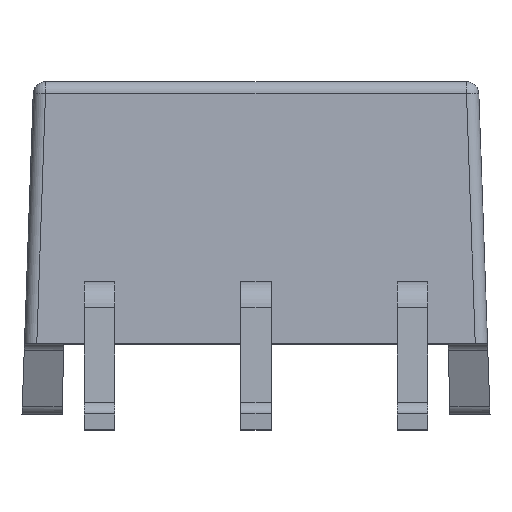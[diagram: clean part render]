
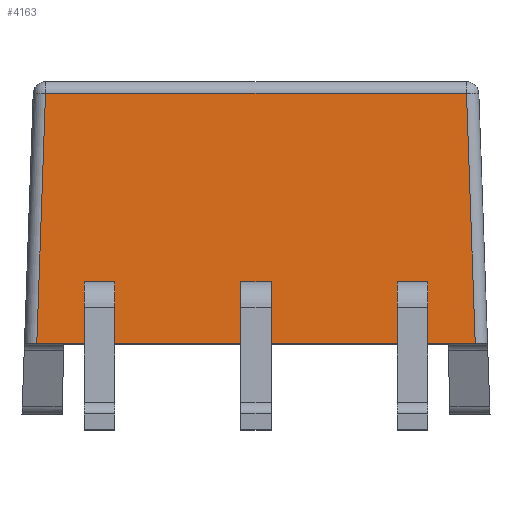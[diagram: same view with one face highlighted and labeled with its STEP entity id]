
A CAD part, top view. The second image highlights one B-rep face of the part: STEP entity #4163.
In plain terms, the highlighted planar face has unit normal (0, 0.035, 0.999).
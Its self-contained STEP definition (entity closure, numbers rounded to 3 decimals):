
#2 = LINE ( 'NONE', #1140, #262 ) ;
#78 = CARTESIAN_POINT ( 'NONE',  ( 0.25, 1.9, 3.484 ) ) ;
#95 = VECTOR ( 'NONE', #2229, 1000. ) ;
#231 = ORIENTED_EDGE ( 'NONE', *, *, #4619, .F. ) ;
#260 = VERTEX_POINT ( 'NONE', #3430 ) ;
#261 = VERTEX_POINT ( 'NONE', #3061 ) ;
#262 = VECTOR ( 'NONE', #2711, 1000. ) ;
#266 = CARTESIAN_POINT ( 'NONE',  ( -0.25, 2.15, 3.475 ) ) ;
#297 = DIRECTION ( 'NONE',  ( 0., -0.999, 0.035 ) ) ;
#312 = ORIENTED_EDGE ( 'NONE', *, *, #1729, .T. ) ;
#331 = CARTESIAN_POINT ( 'NONE',  ( 0.25, 2.15, 3.475 ) ) ;
#455 = CARTESIAN_POINT ( 'NONE',  ( -2.79, 1.9, 3.484 ) ) ;
#531 = CARTESIAN_POINT ( 'NONE',  ( -2.79, 2.15, 3.475 ) ) ;
#574 = CARTESIAN_POINT ( 'NONE',  ( 0.25, 1.9, 3.484 ) ) ;
#602 = CARTESIAN_POINT ( 'NONE',  ( -2.79, 2.15, 3.475 ) ) ;
#640 = EDGE_CURVE ( 'NONE', #1266, #3493, #2, .T. ) ;
#650 = DIRECTION ( 'NONE',  ( 1., 0., 0. ) ) ;
#665 = ORIENTED_EDGE ( 'NONE', *, *, #2615, .T. ) ;
#673 = EDGE_CURVE ( 'NONE', #4628, #3598, #1560, .T. ) ;
#676 = VECTOR ( 'NONE', #956, 1000. ) ;
#708 = LINE ( 'NONE', #2154, #2850 ) ;
#843 = VERTEX_POINT ( 'NONE', #2757 ) ;
#869 = DIRECTION ( 'NONE',  ( 1., 0., 0. ) ) ;
#902 = CARTESIAN_POINT ( 'NONE',  ( -3.611, 5.207, 3.368 ) ) ;
#916 = ORIENTED_EDGE ( 'NONE', *, *, #1431, .F. ) ;
#929 = CARTESIAN_POINT ( 'NONE',  ( 3.591, 0.258, 3.541 ) ) ;
#956 = DIRECTION ( 'NONE',  ( -0.035, 0.999, -0.035 ) ) ;
#992 = VECTOR ( 'NONE', #650, 1000. ) ;
#1001 = CARTESIAN_POINT ( 'NONE',  ( -3.6, -0.007, 3.55 ) ) ;
#1009 = CARTESIAN_POINT ( 'NONE',  ( -0.25, 1.9, 3.484 ) ) ;
#1015 = VECTOR ( 'NONE', #2044, 1000. ) ;
#1044 = VERTEX_POINT ( 'NONE', #3364 ) ;
#1083 = FACE_BOUND ( 'NONE', #1858, .T. ) ;
#1116 = DIRECTION ( 'NONE',  ( 0., -0.999, 0.035 ) ) ;
#1140 = CARTESIAN_POINT ( 'NONE',  ( -2.79, 1.9, 3.484 ) ) ;
#1159 = VERTEX_POINT ( 'NONE', #4661 ) ;
#1198 = ORIENTED_EDGE ( 'NONE', *, *, #4553, .T. ) ;
#1235 = ORIENTED_EDGE ( 'NONE', *, *, #1461, .T. ) ;
#1252 = VECTOR ( 'NONE', #3438, 1000. ) ;
#1259 = EDGE_CURVE ( 'NONE', #843, #2755, #2029, .T. ) ;
#1266 = VERTEX_POINT ( 'NONE', #531 ) ;
#1268 = ORIENTED_EDGE ( 'NONE', *, *, #1772, .F. ) ;
#1320 = EDGE_CURVE ( 'NONE', #1159, #2667, #1806, .T. ) ;
#1336 = VERTEX_POINT ( 'NONE', #266 ) ;
#1337 = VECTOR ( 'NONE', #2028, 1000. ) ;
#1350 = LINE ( 'NONE', #929, #676 ) ;
#1385 = VECTOR ( 'NONE', #297, 1000. ) ;
#1431 = EDGE_CURVE ( 'NONE', #1336, #2215, #4059, .T. ) ;
#1461 = EDGE_CURVE ( 'NONE', #1336, #4628, #4893, .T. ) ;
#1553 = CARTESIAN_POINT ( 'NONE',  ( 2.29, 1.9, 3.484 ) ) ;
#1560 = LINE ( 'NONE', #78, #3746 ) ;
#1621 = LINE ( 'NONE', #902, #1015 ) ;
#1655 = AXIS2_PLACEMENT_3D ( 'NONE', #1834, #2233, #4508 ) ;
#1729 = EDGE_CURVE ( 'NONE', #2667, #261, #3697, .T. ) ;
#1771 = CARTESIAN_POINT ( 'NONE',  ( 2.29, 1.9, 3.484 ) ) ;
#1772 = EDGE_CURVE ( 'NONE', #3930, #4382, #2511, .T. ) ;
#1806 = LINE ( 'NONE', #1001, #3500 ) ;
#1834 = CARTESIAN_POINT ( 'NONE',  ( -3.8, 0., 3.55 ) ) ;
#1858 = EDGE_LOOP ( 'NONE', ( #4667, #2261, #1198, #2053 ) ) ;
#1880 = LINE ( 'NONE', #1904, #1252 ) ;
#1904 = CARTESIAN_POINT ( 'NONE',  ( 2.79, 1.9, 3.484 ) ) ;
#1906 = CARTESIAN_POINT ( 'NONE',  ( 2.79, 1.9, 3.484 ) ) ;
#2028 = DIRECTION ( 'NONE',  ( 1., 0., 0. ) ) ;
#2029 = LINE ( 'NONE', #3533, #3803 ) ;
#2044 = DIRECTION ( 'NONE',  ( -1., 0., 0. ) ) ;
#2053 = ORIENTED_EDGE ( 'NONE', *, *, #1259, .T. ) ;
#2081 = FACE_BOUND ( 'NONE', #3249, .T. ) ;
#2154 = CARTESIAN_POINT ( 'NONE',  ( -0.25, 1.9, 3.484 ) ) ;
#2157 = CARTESIAN_POINT ( 'NONE',  ( 2.29, 1.9, 3.484 ) ) ;
#2166 = VECTOR ( 'NONE', #869, 1000. ) ;
#2202 = LINE ( 'NONE', #2157, #4915 ) ;
#2215 = VERTEX_POINT ( 'NONE', #1009 ) ;
#2229 = DIRECTION ( 'NONE',  ( 0., -0.999, 0.035 ) ) ;
#2233 = DIRECTION ( 'NONE',  ( 0., 0.035, 0.999 ) ) ;
#2261 = ORIENTED_EDGE ( 'NONE', *, *, #640, .F. ) ;
#2338 = DIRECTION ( 'NONE',  ( 1., 0., 0. ) ) ;
#2507 = EDGE_CURVE ( 'NONE', #3493, #2755, #3817, .T. ) ;
#2511 = LINE ( 'NONE', #1771, #1385 ) ;
#2615 = EDGE_CURVE ( 'NONE', #3930, #1044, #3583, .T. ) ;
#2644 = EDGE_CURVE ( 'NONE', #261, #260, #1350, .T. ) ;
#2667 = VERTEX_POINT ( 'NONE', #4711 ) ;
#2706 = CARTESIAN_POINT ( 'NONE',  ( -2.79, 1.9, 3.484 ) ) ;
#2711 = DIRECTION ( 'NONE',  ( 0., -0.999, 0.035 ) ) ;
#2755 = VERTEX_POINT ( 'NONE', #4765 ) ;
#2757 = CARTESIAN_POINT ( 'NONE',  ( -2.29, 2.15, 3.475 ) ) ;
#2815 = EDGE_CURVE ( 'NONE', #4382, #4353, #2202, .T. ) ;
#2842 = EDGE_LOOP ( 'NONE', ( #312, #4740, #4165, #2909 ) ) ;
#2850 = VECTOR ( 'NONE', #2895, 1000. ) ;
#2895 = DIRECTION ( 'NONE',  ( 1., 0., 0. ) ) ;
#2909 = ORIENTED_EDGE ( 'NONE', *, *, #1320, .T. ) ;
#3044 = EDGE_CURVE ( 'NONE', #1044, #4353, #1880, .T. ) ;
#3061 = CARTESIAN_POINT ( 'NONE',  ( 3.56, 1.15, 3.51 ) ) ;
#3102 = CARTESIAN_POINT ( 'NONE',  ( 2.29, 2.15, 3.475 ) ) ;
#3249 = EDGE_LOOP ( 'NONE', ( #4080, #1268, #665, #4455 ) ) ;
#3254 = EDGE_LOOP ( 'NONE', ( #231, #916, #1235, #3378 ) ) ;
#3259 = DIRECTION ( 'NONE',  ( 1., 0., 0. ) ) ;
#3306 = FACE_BOUND ( 'NONE', #3254, .T. ) ;
#3361 = PLANE ( 'NONE',  #1655 ) ;
#3364 = CARTESIAN_POINT ( 'NONE',  ( 2.79, 2.15, 3.475 ) ) ;
#3378 = ORIENTED_EDGE ( 'NONE', *, *, #673, .T. ) ;
#3383 = CARTESIAN_POINT ( 'NONE',  ( -0.25, 1.9, 3.484 ) ) ;
#3430 = CARTESIAN_POINT ( 'NONE',  ( 3.418, 5.207, 3.368 ) ) ;
#3438 = DIRECTION ( 'NONE',  ( 0., -0.999, 0.035 ) ) ;
#3493 = VERTEX_POINT ( 'NONE', #455 ) ;
#3500 = VECTOR ( 'NONE', #3983, 1000. ) ;
#3533 = CARTESIAN_POINT ( 'NONE',  ( -2.29, 1.9, 3.484 ) ) ;
#3583 = LINE ( 'NONE', #4689, #4645 ) ;
#3598 = VERTEX_POINT ( 'NONE', #574 ) ;
#3611 = EDGE_CURVE ( 'NONE', #260, #1159, #1621, .T. ) ;
#3648 = CARTESIAN_POINT ( 'NONE',  ( -3.8, 1.15, 3.51 ) ) ;
#3697 = LINE ( 'NONE', #3648, #992 ) ;
#3746 = VECTOR ( 'NONE', #1116, 1000. ) ;
#3803 = VECTOR ( 'NONE', #3934, 1000. ) ;
#3817 = LINE ( 'NONE', #2706, #2166 ) ;
#3930 = VERTEX_POINT ( 'NONE', #3102 ) ;
#3934 = DIRECTION ( 'NONE',  ( 0., -0.999, 0.035 ) ) ;
#3935 = DIRECTION ( 'NONE',  ( 1., 0., 0. ) ) ;
#3983 = DIRECTION ( 'NONE',  ( -0.035, -0.999, 0.035 ) ) ;
#4003 = LINE ( 'NONE', #602, #1337 ) ;
#4059 = LINE ( 'NONE', #3383, #95 ) ;
#4080 = ORIENTED_EDGE ( 'NONE', *, *, #2815, .F. ) ;
#4163 = ADVANCED_FACE ( 'NONE', ( #2081, #1083, #3306, #4896 ), #3361, .T. ) ;
#4165 = ORIENTED_EDGE ( 'NONE', *, *, #3611, .T. ) ;
#4353 = VERTEX_POINT ( 'NONE', #1906 ) ;
#4382 = VERTEX_POINT ( 'NONE', #1553 ) ;
#4455 = ORIENTED_EDGE ( 'NONE', *, *, #3044, .T. ) ;
#4478 = CARTESIAN_POINT ( 'NONE',  ( -0.25, 2.15, 3.475 ) ) ;
#4508 = DIRECTION ( 'NONE',  ( 0., -0.999, 0.035 ) ) ;
#4553 = EDGE_CURVE ( 'NONE', #1266, #843, #4003, .T. ) ;
#4619 = EDGE_CURVE ( 'NONE', #2215, #3598, #708, .T. ) ;
#4628 = VERTEX_POINT ( 'NONE', #331 ) ;
#4645 = VECTOR ( 'NONE', #3935, 1000. ) ;
#4661 = CARTESIAN_POINT ( 'NONE',  ( -3.418, 5.207, 3.368 ) ) ;
#4667 = ORIENTED_EDGE ( 'NONE', *, *, #2507, .F. ) ;
#4689 = CARTESIAN_POINT ( 'NONE',  ( 2.29, 2.15, 3.475 ) ) ;
#4711 = CARTESIAN_POINT ( 'NONE',  ( -3.56, 1.15, 3.51 ) ) ;
#4740 = ORIENTED_EDGE ( 'NONE', *, *, #2644, .T. ) ;
#4765 = CARTESIAN_POINT ( 'NONE',  ( -2.29, 1.9, 3.484 ) ) ;
#4777 = VECTOR ( 'NONE', #2338, 1000. ) ;
#4893 = LINE ( 'NONE', #4478, #4777 ) ;
#4896 = FACE_OUTER_BOUND ( 'NONE', #2842, .T. ) ;
#4915 = VECTOR ( 'NONE', #3259, 1000. ) ;
